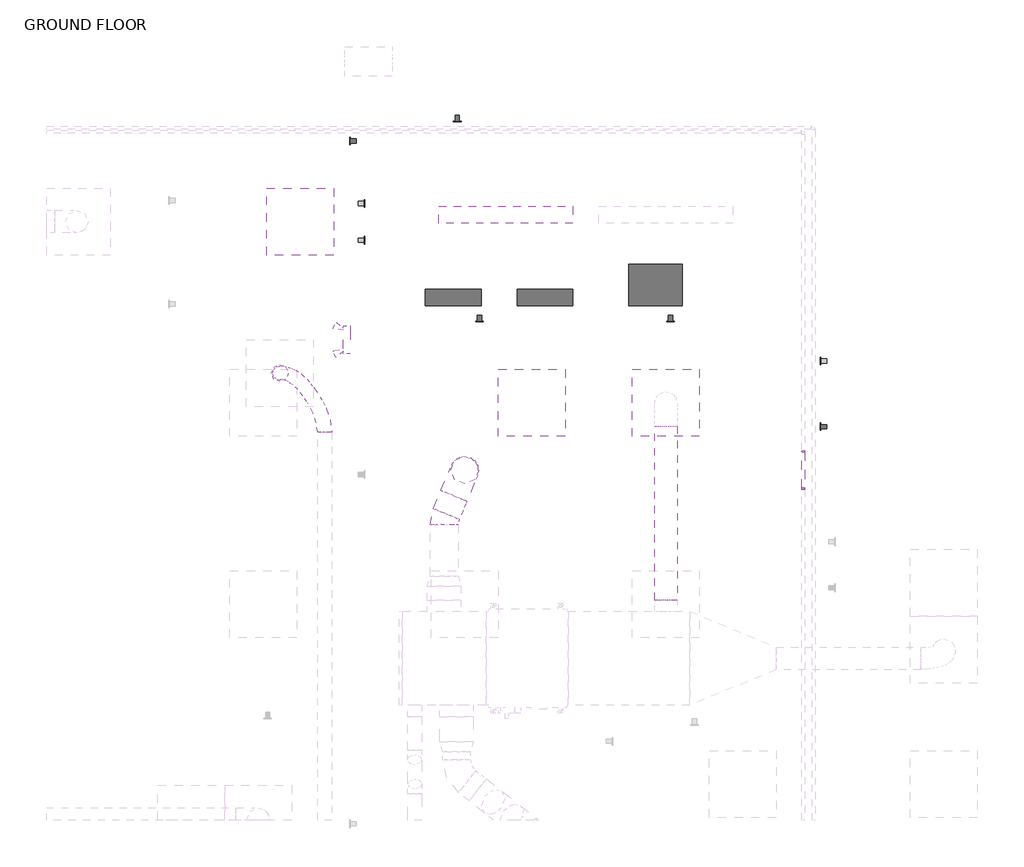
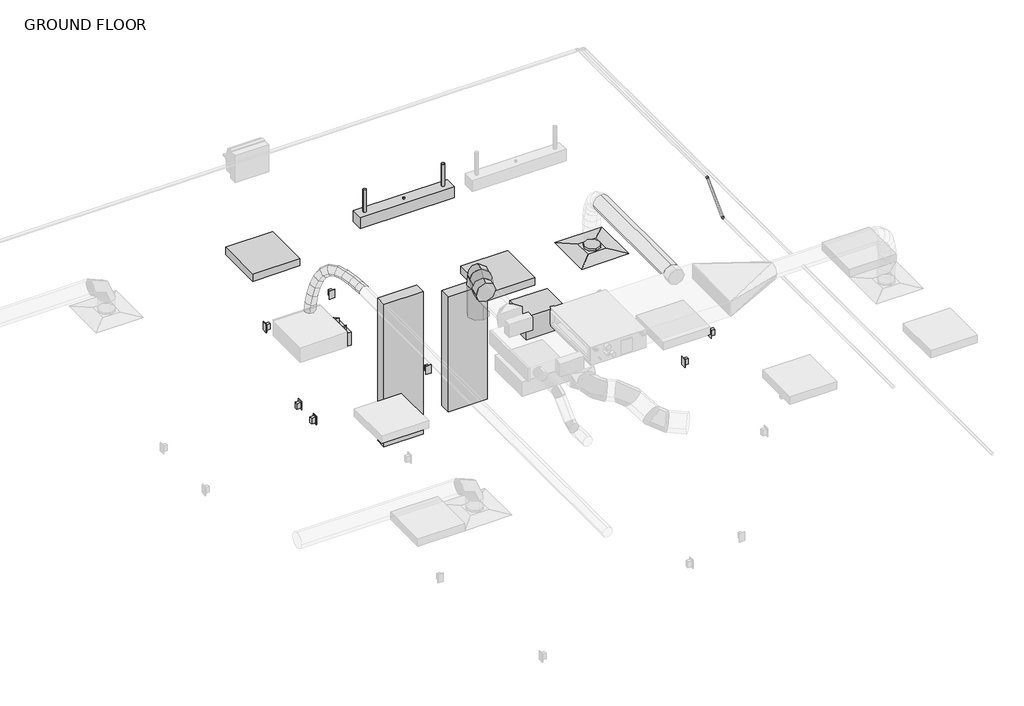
# One storey, part 21 of 22: 7 proxies, 4 duct segments, 4 light fixtures, 3 duct fittings, 2 electric appliances, 2 pipe fittings, 2 switching devices, 1 air terminal, 1 pipe segment.
"""IFC4 building model written with IfcOpenShell, lengths in millimetres."""

from ifc_helpers import new_model, si_unit, point, frame, frame_2d, origin, place, context, project, spatial, circle_curve, ellipse_curve, trimmed, segment, composite_curve, outline, extrude, transform, mapped, element, save
from ifc_brep_helpers import plane_surface, cylinder_surface, advanced_brep
from components import air_terminal_e9020785, proxy_15_kva_662d63cf, duplex_receptacle_countertop_10251bba, lighting_and_appliance_panelboard_208v_mcb_surface_400_a_1492eeec, lighting_and_appliance_panelboard_480v_mcb_surface_400_a_88b687c3, round_elbow_1_d_6fec3262, round_elbow_1_d_5b88d7e2, round_transition_angle_45_degree_fe5c3047, telephone_outlet_data_plain_18c24199, emergency_wall_light_120v_37438f40, suspended_fluorescent_strip_non_hosted_strip_light_1x4_120v_4ea4ccb3, troffer_corner_insert_2x2_3lamp_e67c7f8f, elbow_generic_standard_1964ee4a

model = new_model("IFC4")

# Units and contexts
model_context = context("Model", 3, world=origin())
ifc_project = project(units=[si_unit("LENGTHUNIT", "METRE", prefix="MILLI")], contexts=[model_context])

# Site, building, storey
site = spatial("IfcSite", under=ifc_project)
building = spatial("IfcBuilding", under=site)
storey = spatial("IfcBuildingStorey", under=building, Name="GROUND FLOOR", Elevation=30480.0)

# Air terminal
placement = place(None, origin())
air_terminal_shape = air_terminal_e9020785(model_context)
element("IfcAirTerminal", 1, ObjectType="Supply Diffuser - Rectangular Face Round Neck - Hosted : 24\"x24\" Face 8\" Neck - Hosted", at=placement, inside=storey, context=model_context, shape_type="MappedRepresentation", body=[
    mapped(air_terminal_shape, transform((12040.5545393, 5163.5445005, 33223.2), x_axis=(0.0, -1.0, 0.0), y_axis=(-1.0, 0.0, 0.0), z_axis=(0.0, 0.0, -1.0))),
])

# Proxies
proxy_15_kva_shape = proxy_15_kva_662d63cf(model_context)
element("IfcBuildingElementProxy", 2, Name="Dry Type Transformer - 480-208Y120 - NEMA Type 3R : 15 kVA", ObjectType="Dry Type Transformer - 480-208Y120 - NEMA Type 3R : 15 kVA", at=placement, inside=storey, context=model_context, shape_type="MappedRepresentation", body=[
    mapped(proxy_15_kva_shape, transform((11944.9930047, 6049.3695005, 31699.2), x_axis=(-1.0, 0.0, 0.0), y_axis=(0.0, 0.0, 1.0), z_axis=(0.0, 1.0, 0.0))),
])
duplex_receptacle_countertop_shape = duplex_receptacle_countertop_10251bba(model_context)
element("IfcBuildingElementProxy", 3, Name="Duplex Receptacle : Countertop", ObjectType="Duplex Receptacle : Countertop", at=placement, inside=storey, context=model_context, shape_type="MappedRepresentation", body=[
    mapped(duplex_receptacle_countertop_shape, transform((10347.0005995, 5906.4945005, 31699.2), x_axis=(1.0, 0.0, 0.0), y_axis=(0.0, 0.0, 1.0), z_axis=(0.0, -1.0, 0.0))),
])
element("IfcBuildingElementProxy", 4, Name="Duplex Receptacle : Countertop", ObjectType="Duplex Receptacle : Countertop", at=placement, inside=storey, context=model_context, shape_type="MappedRepresentation", body=[
    mapped(duplex_receptacle_countertop_shape, transform((12083.1234359, 5906.4945005, 31699.2), x_axis=(1.0, 0.0, 0.0), y_axis=(0.0, 0.0, 1.0), z_axis=(0.0, -1.0, 0.0))),
])
element("IfcBuildingElementProxy", 5, Name="Duplex Receptacle : Countertop", ObjectType="Duplex Receptacle : Countertop", at=placement, inside=storey, context=model_context, shape_type="MappedRepresentation", body=[
    mapped(duplex_receptacle_countertop_shape, transform((13450.2545393, 4948.4443724, 31699.2), x_axis=(0.0, -1.0, 0.0), y_axis=(0.0, 0.0, 1.0), z_axis=(-1.0, 0.0, 0.0))),
])
element("IfcBuildingElementProxy", 6, Name="Duplex Receptacle : Standard", ObjectType="Duplex Receptacle : Standard", at=placement, inside=storey, context=model_context, shape_type="MappedRepresentation", body=[
    mapped(duplex_receptacle_countertop_shape, transform((9297.3545393, 6976.0330864, 30937.2), x_axis=(0.0, 1.0, 0.0), y_axis=(0.0, 0.0, 1.0), z_axis=(1.0, 0.0, 0.0))),
])
lighting_and_appliance_panelboard_208v_mcb_surface_400_a_shape = lighting_and_appliance_panelboard_208v_mcb_surface_400_a_1492eeec(model_context)
element("IfcBuildingElementProxy", 7, Name="Lighting and Appliance Panelboard - 208V MCB - Surface : 400 A", ObjectType="Lighting and Appliance Panelboard - 208V MCB - Surface : 400 A", at=placement, inside=storey, context=model_context, shape_type="MappedRepresentation", body=[
    mapped(lighting_and_appliance_panelboard_208v_mcb_surface_400_a_shape, transform((10202.0902446, 6049.3695005, 31935.3056703), x_axis=(-1.0, 0.0, 0.0), y_axis=(0.0, 0.0, 1.0), z_axis=(0.0, 1.0, 0.0))),
])
lighting_and_appliance_panelboard_480v_mcb_surface_400_a_shape = lighting_and_appliance_panelboard_480v_mcb_surface_400_a_88b687c3(model_context)
element("IfcBuildingElementProxy", 8, Name="Lighting and Appliance Panelboard - 480V MCB - Surface : 400 A", ObjectType="Lighting and Appliance Panelboard - 480V MCB - Surface : 400 A", at=placement, inside=storey, context=model_context, shape_type="MappedRepresentation", body=[
    mapped(lighting_and_appliance_panelboard_480v_mcb_surface_400_a_shape, transform((11043.3905267, 6049.3695005, 32181.8), x_axis=(-1.0, 0.0, 0.0), y_axis=(0.0, 0.0, 1.0), z_axis=(0.0, 1.0, 0.0))),
])

# Duct fittings
round_elbow_1_d_shape = round_elbow_1_d_6fec3262(model_context)
element("IfcDuctFitting", 9, ObjectType="Round Elbow : 1 D", at=placement, inside=storey, context=model_context, shape_type="MappedRepresentation", body=[
    mapped(round_elbow_1_d_shape, transform((10211.7545393, 4553.9445005, 33992.34375), x_axis=(0.0, 0.0, 1.0), y_axis=(-0.3851088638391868, -0.9228711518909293, 0.0), z_axis=(0.9228711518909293, -0.3851088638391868, 0.0))),
])
round_elbow_1_d_2_shape = round_elbow_1_d_5b88d7e2(model_context)
element("IfcDuctFitting", 10, ObjectType="Round Elbow : 1 D", at=placement, inside=storey, context=model_context, shape_type="MappedRepresentation", body=[
    mapped(round_elbow_1_d_2_shape, transform((10025.6343566, 4107.927897, 33992.34375), x_axis=(-0.3851088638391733, -0.9228711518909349, 0.0), y_axis=(0.9228711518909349, -0.3851088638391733, 0.0), z_axis=(0.0, 0.0, 1.0))),
])
round_transition_angle_45_degree_shape = round_transition_angle_45_degree_fe5c3047(model_context)
element("IfcDuctFitting", 11, ObjectType="Round Transition - Angle : 45 Degree", at=placement, inside=storey, context=model_context, shape_type="MappedRepresentation", body=[
    mapped(round_transition_angle_45_degree_shape, transform((8532.1795393, 5435.0070005, 33277.175), x_axis=(0.0, 0.0, 1.0), y_axis=(-1.0, 0.0, 0.0), z_axis=(0.0, -1.0, 0.0))),
])

# Duct segments
element("IfcDuctSegment", 12, ObjectType="Flex - Round", at=placement, inside=storey, context=model_context, shape_type="AdvancedBrep", body=[
    advanced_brep(
    [(8875.0795393, 4896.3149962, 33877.25), (8938.5795393, 4896.3149962, 33813.75), (9002.0795393, 4896.3149962, 33877.25), (8938.5795393, 4896.3149962, 33940.75), (8875.0795393, 4900.8547311, 33877.25), (8938.5795393, 4910.0877861, 33813.75), (9002.0795393, 4909.5169222, 33877.25), (8938.5795393, 4900.2838673, 33940.75), (8498.0807082, 5381.4391023, 33307.8355122), (8478.6116411, 5469.1058316, 33307.8355122), (8566.2783703, 5488.5748987, 33307.8355122), (8585.7474375, 5400.9081695, 33307.8355122), (8863.8857275, 4982.0425527, 33889.9192219), (8924.7050592, 5010.7182805, 33829.453218), (8988.1741865, 5010.3713338, 33892.9881599), (8927.3548548, 4981.695606, 33953.4541638), (8833.8111138, 5071.1041338, 33919.2099071), (8889.698954, 5114.3837541, 33863.5468498), (8951.9191716, 5117.7352714, 33928.2981472), (8896.0313313, 5074.4556512, 33983.9612045), (8790.3755866, 5155.8451563, 33951.454483), (8843.3871918, 5204.7361993, 33897.9266129), (8901.2464031, 5216.59587, 33965.9153246), (8848.234798, 5167.704827, 34019.4431947), (8740.8976826, 5229.4503342, 33971.6182323), (8795.5614036, 5275.8836278, 33917.4170747), (8842.289142, 5304.3028933, 33989.9421998), (8787.6254209, 5257.8695997, 34044.1433574), (8692.9401256, 5286.2917627, 33966.2015223), (8756.497109, 5322.1843665, 33913.0048409), (8780.9199976, 5377.0403315, 33983.010678), (8717.3630142, 5341.1477278, 34036.2073593), (8648.8363887, 5327.176377, 33928.1852472), (8723.3182628, 5352.9414955, 33884.4055378), (8724.8233616, 5429.0424857, 33934.6568355), (8650.3414874, 5403.2773672, 33978.436545), (8607.4407626, 5355.753782, 33859.0017765), (8688.2568527, 5377.1460846, 33825.8082832), (8677.5734778, 5461.6613682, 33855.689291), (8596.7573877, 5440.2690657, 33888.8827843), (8570.661405, 5373.1745384, 33764.8754307), (8654.5815203, 5393.0966014, 33739.6258104), (8638.6693155, 5480.0885507, 33756.1251094), (8554.7492003, 5460.1664877, 33781.3747297), (8540.2848152, 5381.5183216, 33654.4016344), (8625.8982569, 5400.975265, 33635.3103157), (8607.7315024, 5488.5864897, 33643.6102521), (8522.1180606, 5469.1295464, 33662.7015708), (8517.4559318, 5383.612627, 33536.0689468), (8604.1400503, 5402.9713472, 33522.5274422), (8585.0222265, 5490.6698223, 33525.8975454), (8498.338108, 5471.3111021, 33539.43905), (8503.0715594, 5382.5248173, 33417.9387862), (8590.4843538, 5401.9386432, 33410.3814563), (8571.0518102, 5489.6133179, 33411.1669567), (8483.6390159, 5470.1994919, 33418.7242867), (8498.0807082, 5381.4391023, 33311.8810992), (8585.7474375, 5400.9081695, 33309.7199931), (8566.2783703, 5488.5748987, 33309.7293512), (8478.6116411, 5469.1058316, 33311.8904572)],
    [
        (0, 1, circle_curve(frame((8938.5795393, 4896.3149962, 33877.25), z_axis=(0.0, -1.0, 0.0), x_axis=(-1.0, 0.0, 0.0)), 63.5)),
        (1, 2, circle_curve(frame((8938.5795393, 4896.3149962, 33877.25), z_axis=(0.0, -1.0, 0.0), x_axis=(-1.0, 0.0, 0.0)), 63.5)),
        (2, 3, circle_curve(frame((8938.5795393, 4896.3149962, 33877.25), z_axis=(0.0, -1.0, 0.0), x_axis=(-1.0, 0.0, 0.0)), 63.5)),
        (3, 0, circle_curve(frame((8938.5795393, 4896.3149962, 33877.25), z_axis=(0.0, -1.0, 0.0), x_axis=(-1.0, 0.0, 0.0)), 63.5)),
        (0, 4),
        (4, 5, ellipse_curve(frame((8938.5795393, 4905.1858267, 33877.25), z_axis=(0.06784720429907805, -0.9947361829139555, -0.07678986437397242), x_axis=(-0.6586379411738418, -0.1024691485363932, 0.7454502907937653)), 63.8360211, 63.5)),
        (5, 1),
        (5, 6, ellipse_curve(frame((8938.5795393, 4905.1858267, 33877.25), z_axis=(0.06784720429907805, -0.9947361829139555, -0.07678986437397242), x_axis=(-0.6586379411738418, -0.1024691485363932, 0.7454502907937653)), 63.8360211, 63.5)),
        (6, 2),
        (6, 7, ellipse_curve(frame((8938.5795393, 4905.1858267, 33877.25), z_axis=(0.06784720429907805, -0.9947361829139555, -0.07678986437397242), x_axis=(-0.6586379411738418, -0.1024691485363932, 0.7454502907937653)), 63.8360211, 63.5)),
        (7, 3),
        (7, 4, ellipse_curve(frame((8938.5795393, 4905.1858267, 33877.25), z_axis=(0.06784720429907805, -0.9947361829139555, -0.07678986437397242), x_axis=(-0.6586379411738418, -0.1024691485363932, 0.7454502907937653)), 63.8360211, 63.5)),
        (8, 9, circle_curve(frame((8532.1795393, 5435.0070005, 33307.8355122), z_axis=(0.0, 0.0, -1.0), x_axis=(-0.5369894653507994, -0.8435889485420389, 0.0)), 63.5)),
        (9, 10, circle_curve(frame((8532.1795393, 5435.0070005, 33307.8355122), z_axis=(0.0, 0.0, -1.0), x_axis=(-0.5369894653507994, -0.8435889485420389, 0.0)), 63.5)),
        (10, 11, circle_curve(frame((8532.1795393, 5435.0070005, 33307.8355122), z_axis=(0.0, 0.0, -1.0), x_axis=(-0.5369894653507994, -0.8435889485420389, 0.0)), 63.5)),
        (11, 8, circle_curve(frame((8532.1795393, 5435.0070005, 33307.8355122), z_axis=(0.0, 0.0, -1.0), x_axis=(-0.5369894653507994, -0.8435889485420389, 0.0)), 63.5)),
        (4, 12),
        (12, 13, ellipse_curve(frame((8926.029957, 4996.2069433, 33891.4536909), z_axis=(0.22176007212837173, -0.9483804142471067, -0.22670919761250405), x_axis=(-0.7233012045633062, -0.31591314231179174, 0.6140311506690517)), 63.9455449, 63.5)),
        (13, 5),
        (13, 14, ellipse_curve(frame((8926.029957, 4996.2069433, 33891.4536909), z_axis=(0.22176007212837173, -0.9483804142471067, -0.22670919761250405), x_axis=(-0.7233012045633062, -0.31591314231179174, 0.6140311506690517)), 63.9455449, 63.5)),
        (14, 6),
        (14, 15, ellipse_curve(frame((8926.029957, 4996.2069433, 33891.4536909), z_axis=(0.22176007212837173, -0.9483804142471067, -0.22670919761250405), x_axis=(-0.7233012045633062, -0.31591314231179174, 0.6140311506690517)), 63.9455449, 63.5)),
        (15, 7),
        (15, 12, ellipse_curve(frame((8926.029957, 4996.2069433, 33891.4536909), z_axis=(0.22176007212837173, -0.9483804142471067, -0.22670919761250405), x_axis=(-0.7233012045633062, -0.31591314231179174, 0.6140311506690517)), 63.9455449, 63.5)),
        (12, 16),
        (16, 17, ellipse_curve(frame((8892.8651427, 5094.4197026, 33923.7540271), z_axis=(0.36968793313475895, -0.8759532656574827, -0.30989790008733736), x_axis=(-0.8870554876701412, -0.43198690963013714, 0.1628492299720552)), 63.6622762, 63.5)),
        (17, 13),
        (17, 18, ellipse_curve(frame((8892.8651427, 5094.4197026, 33923.7540271), z_axis=(0.36968793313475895, -0.8759532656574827, -0.30989790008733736), x_axis=(-0.8870554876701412, -0.43198690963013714, 0.1628492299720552)), 63.6622762, 63.5)),
        (18, 14),
        (18, 19, ellipse_curve(frame((8892.8651427, 5094.4197026, 33923.7540271), z_axis=(0.36968793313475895, -0.8759532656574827, -0.30989790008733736), x_axis=(-0.8870554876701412, -0.43198690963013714, 0.1628492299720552)), 63.6622762, 63.5)),
        (19, 15),
        (19, 16, ellipse_curve(frame((8892.8651427, 5094.4197026, 33923.7540271), z_axis=(0.36968793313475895, -0.8759532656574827, -0.30989790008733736), x_axis=(-0.8870554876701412, -0.43198690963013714, 0.1628492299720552)), 63.6622762, 63.5)),
        (16, 20),
        (20, 21, ellipse_curve(frame((8845.8109949, 5186.2205132, 33958.6849038), z_axis=(0.4894574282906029, -0.8285176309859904, -0.272010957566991), x_axis=(-0.7307496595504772, -0.21947974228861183, -0.6464004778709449)), 63.6871348, 63.5)),
        (21, 17),
        (21, 22, ellipse_curve(frame((8845.8109949, 5186.2205132, 33958.6849038), z_axis=(0.4894574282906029, -0.8285176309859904, -0.272010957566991), x_axis=(-0.7307496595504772, -0.21947974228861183, -0.6464004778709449)), 63.6871348, 63.5)),
        (22, 18),
        (22, 23, ellipse_curve(frame((8845.8109949, 5186.2205132, 33958.6849038), z_axis=(0.4894574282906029, -0.8285176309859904, -0.272010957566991), x_axis=(-0.7307496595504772, -0.21947974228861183, -0.6464004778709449)), 63.6871348, 63.5)),
        (23, 19),
        (23, 20, ellipse_curve(frame((8845.8109949, 5186.2205132, 33958.6849038), z_axis=(0.4894574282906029, -0.8285176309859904, -0.272010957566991), x_axis=(-0.7307496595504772, -0.21947974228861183, -0.6464004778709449)), 63.6871348, 63.5)),
        (20, 24),
        (24, 25, ellipse_curve(frame((8791.5934123, 5266.8766137, 33980.780216), z_axis=(0.6010322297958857, -0.7956541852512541, -0.07546307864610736), x_axis=(-0.31564562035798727, -0.1495663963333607, -0.9370153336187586)), 64.2980116, 63.5)),
        (25, 21),
        (25, 26, ellipse_curve(frame((8791.5934123, 5266.8766137, 33980.780216), z_axis=(0.6010322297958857, -0.7956541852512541, -0.07546307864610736), x_axis=(-0.31564562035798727, -0.1495663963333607, -0.9370153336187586)), 64.2980116, 63.5)),
        (26, 22),
        (26, 27, ellipse_curve(frame((8791.5934123, 5266.8766137, 33980.780216), z_axis=(0.6010322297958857, -0.7956541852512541, -0.07546307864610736), x_axis=(-0.31564562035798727, -0.1495663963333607, -0.9370153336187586)), 64.2980116, 63.5)),
        (27, 23),
        (27, 24, ellipse_curve(frame((8791.5934123, 5266.8766137, 33980.780216), z_axis=(0.6010322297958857, -0.7956541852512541, -0.07546307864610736), x_axis=(-0.31564562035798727, -0.1495663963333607, -0.9370153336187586)), 64.2980116, 63.5)),
        (24, 28),
        (28, 29, ellipse_curve(frame((8736.9300616, 5331.6660471, 33974.6061001), z_axis=(0.6521372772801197, -0.6902902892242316, 0.3133947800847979), x_axis=(0.04661097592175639, -0.37610301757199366, -0.9254047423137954)), 65.5729657, 63.5)),
        (29, 25),
        (29, 30, ellipse_curve(frame((8736.9300616, 5331.6660471, 33974.6061001), z_axis=(0.6521372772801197, -0.6902902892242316, 0.3133947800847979), x_axis=(0.04661097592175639, -0.37610301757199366, -0.9254047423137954)), 65.5729657, 63.5)),
        (30, 26),
        (30, 31, ellipse_curve(frame((8736.9300616, 5331.6660471, 33974.6061001), z_axis=(0.6521372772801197, -0.6902902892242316, 0.3133947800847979), x_axis=(0.04661097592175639, -0.37610301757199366, -0.9254047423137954)), 65.5729657, 63.5)),
        (31, 27),
        (31, 28, ellipse_curve(frame((8736.9300616, 5331.6660471, 33974.6061001), z_axis=(0.6521372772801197, -0.6902902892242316, 0.3133947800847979), x_axis=(0.04661097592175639, -0.37610301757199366, -0.9254047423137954)), 65.5729657, 63.5)),
        (28, 32),
        (32, 33, ellipse_curve(frame((8686.8298751, 5378.1094314, 33931.4210414), z_axis=(0.562693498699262, -0.46323884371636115, 0.6846793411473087), x_axis=(0.3490527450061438, -0.6176477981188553, -0.7047505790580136)), 64.739373, 63.5)),
        (33, 29),
        (33, 34, ellipse_curve(frame((8686.8298751, 5378.1094314, 33931.4210414), z_axis=(0.562693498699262, -0.46323884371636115, 0.6846793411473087), x_axis=(0.3490527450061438, -0.6176477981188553, -0.7047505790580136)), 64.739373, 63.5)),
        (34, 30),
        (34, 35, ellipse_curve(frame((8686.8298751, 5378.1094314, 33931.4210414), z_axis=(0.562693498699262, -0.46323884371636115, 0.6846793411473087), x_axis=(0.3490527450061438, -0.6176477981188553, -0.7047505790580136)), 64.739373, 63.5)),
        (35, 31),
        (35, 32, ellipse_curve(frame((8686.8298751, 5378.1094314, 33931.4210414), z_axis=(0.562693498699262, -0.46323884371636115, 0.6846793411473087), x_axis=(0.3490527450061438, -0.6176477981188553, -0.7047505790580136)), 64.739373, 63.5)),
        (32, 36),
        (36, 37, ellipse_curve(frame((8642.5071202, 5408.7075751, 33857.3455337), z_axis=(0.42420587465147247, -0.2537229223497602, 0.869295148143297), x_axis=(0.5363938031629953, -0.7030237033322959, -0.4669468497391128)), 63.9375529, 63.5)),
        (37, 33),
        (37, 38, ellipse_curve(frame((8642.5071202, 5408.7075751, 33857.3455337), z_axis=(0.42420587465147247, -0.2537229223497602, 0.869295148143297), x_axis=(0.5363938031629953, -0.7030237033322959, -0.4669468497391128)), 63.9375529, 63.5)),
        (38, 34),
        (38, 39, ellipse_curve(frame((8642.5071202, 5408.7075751, 33857.3455337), z_axis=(0.42420587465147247, -0.2537229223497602, 0.869295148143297), x_axis=(0.5363938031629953, -0.7030237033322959, -0.4669468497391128)), 63.9375529, 63.5)),
        (39, 35),
        (39, 36, ellipse_curve(frame((8642.5071202, 5408.7075751, 33857.3455337), z_axis=(0.42420587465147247, -0.2537229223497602, 0.869295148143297), x_axis=(0.5363938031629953, -0.7030237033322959, -0.4669468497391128)), 63.9375529, 63.5)),
        (36, 40),
        (40, 41, ellipse_curve(frame((8604.6653603, 5426.6315445, 33760.5002701), z_axis=(0.31233337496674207, -0.12156419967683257, 0.9421624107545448), x_axis=(0.662124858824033, -0.6833243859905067, -0.3076661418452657)), 63.6613778, 63.5)),
        (41, 37),
        (41, 42, ellipse_curve(frame((8604.6653603, 5426.6315445, 33760.5002701), z_axis=(0.31233337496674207, -0.12156419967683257, 0.9421624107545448), x_axis=(0.662124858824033, -0.6833243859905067, -0.3076661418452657)), 63.6613778, 63.5)),
        (42, 38),
        (42, 43, ellipse_curve(frame((8604.6653603, 5426.6315445, 33760.5002701), z_axis=(0.31233337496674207, -0.12156419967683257, 0.9421624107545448), x_axis=(0.662124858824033, -0.6833243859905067, -0.3076661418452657)), 63.6613778, 63.5)),
        (43, 39),
        (43, 40, ellipse_curve(frame((8604.6653603, 5426.6315445, 33760.5002701), z_axis=(0.31233337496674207, -0.12156419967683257, 0.9421624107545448), x_axis=(0.662124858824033, -0.6833243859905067, -0.3076661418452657)), 63.6613778, 63.5)),
        (40, 44),
        (44, 45, ellipse_curve(frame((8574.0081588, 5435.0524057, 33649.0059432), z_axis=(0.22717106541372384, -0.04505492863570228, 0.9728120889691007), x_axis=(0.7871206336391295, -0.5797108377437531, -0.21065719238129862)), 63.5722389, 63.5)),
        (45, 41),
        (45, 46, ellipse_curve(frame((8574.0081588, 5435.0524057, 33649.0059432), z_axis=(0.22717106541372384, -0.04505492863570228, 0.9728120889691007), x_axis=(0.7871206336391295, -0.5797108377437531, -0.21065719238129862)), 63.5722389, 63.5)),
        (46, 42),
        (46, 47, ellipse_curve(frame((8574.0081588, 5435.0524057, 33649.0059432), z_axis=(0.22717106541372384, -0.04505492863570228, 0.9728120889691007), x_axis=(0.7871206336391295, -0.5797108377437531, -0.21065719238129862)), 63.5722389, 63.5)),
        (47, 43),
        (47, 44, ellipse_curve(frame((8574.0081588, 5435.0524057, 33649.0059432), z_axis=(0.22717106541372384, -0.04505492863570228, 0.9728120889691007), x_axis=(0.7871206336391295, -0.5797108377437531, -0.21065719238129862)), 63.5722389, 63.5)),
        (44, 48),
        (48, 49, ellipse_curve(frame((8551.2390791, 5437.1412247, 33530.9832461), z_axis=(0.15524158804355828, -0.004120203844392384, 0.9878679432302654), x_axis=(0.9225643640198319, -0.356962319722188, -0.14646807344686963)), 63.5438436, 63.5)),
        (49, 45),
        (49, 50, ellipse_curve(frame((8551.2390791, 5437.1412247, 33530.9832461), z_axis=(0.15524158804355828, -0.004120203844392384, 0.9878679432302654), x_axis=(0.9225643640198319, -0.356962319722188, -0.14646807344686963)), 63.5438436, 63.5)),
        (50, 46),
        (50, 51, ellipse_curve(frame((8551.2390791, 5437.1412247, 33530.9832461), z_axis=(0.15524158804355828, -0.004120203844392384, 0.9878679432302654), x_axis=(0.9225643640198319, -0.356962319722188, -0.14646807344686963)), 63.5438436, 63.5)),
        (51, 47),
        (51, 48, ellipse_curve(frame((8551.2390791, 5437.1412247, 33530.9832461), z_axis=(0.15524158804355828, -0.004120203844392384, 0.9878679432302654), x_axis=(0.9225643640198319, -0.356962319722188, -0.14646807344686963)), 63.5438436, 63.5)),
        (48, 52),
        (52, 53, ellipse_curve(frame((8537.0616848, 5436.0690676, 33414.5528715), z_axis=(0.08399407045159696, 0.009689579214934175, 0.9964191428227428), x_axis=(0.9963711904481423, -0.014628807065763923, -0.0838477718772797)), 63.5436694, 63.5)),
        (53, 49),
        (53, 54, ellipse_curve(frame((8537.0616848, 5436.0690676, 33414.5528715), z_axis=(0.08399407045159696, 0.009689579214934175, 0.9964191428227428), x_axis=(0.9963711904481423, -0.014628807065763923, -0.0838477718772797)), 63.5436694, 63.5)),
        (54, 50),
        (54, 55, ellipse_curve(frame((8537.0616848, 5436.0690676, 33414.5528715), z_axis=(0.08399407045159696, 0.009689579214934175, 0.9964191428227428), x_axis=(0.9963711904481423, -0.014628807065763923, -0.0838477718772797)), 63.5436694, 63.5)),
        (55, 51),
        (55, 52, ellipse_curve(frame((8537.0616848, 5436.0690676, 33414.5528715), z_axis=(0.08399407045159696, 0.009689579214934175, 0.9964191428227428), x_axis=(0.9963711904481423, -0.014628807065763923, -0.0838477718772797)), 63.5436694, 63.5)),
        (52, 56),
        (56, 57, ellipse_curve(frame((8532.1795393, 5435.0070005, 33310.8052252), z_axis=(0.02350851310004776, 0.005114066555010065, 0.9997105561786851), x_axis=(0.9768631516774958, 0.21250783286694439, -0.024058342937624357)), 63.518385, 63.5)),
        (57, 53),
        (57, 58, ellipse_curve(frame((8532.1795393, 5435.0070005, 33310.8052252), z_axis=(0.02350851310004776, 0.005114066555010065, 0.9997105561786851), x_axis=(0.9768631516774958, 0.21250783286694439, -0.024058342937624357)), 63.518385, 63.5)),
        (58, 54),
        (58, 59, ellipse_curve(frame((8532.1795393, 5435.0070005, 33310.8052252), z_axis=(0.02350851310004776, 0.005114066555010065, 0.9997105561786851), x_axis=(0.9768631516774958, 0.21250783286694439, -0.024058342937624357)), 63.518385, 63.5)),
        (59, 55),
        (59, 56, ellipse_curve(frame((8532.1795393, 5435.0070005, 33310.8052252), z_axis=(0.02350851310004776, 0.005114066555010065, 0.9997105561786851), x_axis=(0.9768631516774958, 0.21250783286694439, -0.024058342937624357)), 63.518385, 63.5)),
        (56, 8),
        (11, 57),
        (10, 58),
        (9, 59),
    ],
    [
        plane_surface(frame((8875.0795393, 4896.3149962, 33877.25), z_axis=(0.0, -1.0, 0.0), x_axis=(0.0, 0.0, 1.0))),
        cylinder_surface(frame((8938.5795393, 4896.3149962, 33877.25), z_axis=(0.0, -1.0, 0.0), x_axis=(-1.0, 0.0, 0.0)), 63.5),
        plane_surface(frame((8532.1795393, 5371.5070005, 33307.8355122), z_axis=(0.0, 0.0, -1.0), x_axis=(-1.0, 0.0, 0.0))),
        cylinder_surface(frame((8938.5795393, 4905.1858267, 33877.25), z_axis=(0.1349801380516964, -0.9790001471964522, -0.1527713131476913), x_axis=(-0.9907935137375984, -0.1349801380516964, -0.010419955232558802)), 63.5),
        cylinder_surface(frame((8926.029957, 4996.2069433, 33891.4536909), z_axis=(0.30544974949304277, -0.9045448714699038, -0.2974878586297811), x_axis=(-0.9511678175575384, -0.304443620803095, -0.05092999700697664)), 63.5),
        cylinder_surface(frame((8892.8651427, 5094.4197026, 33923.7540271), z_axis=(0.4320414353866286, -0.8428960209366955, -0.3207280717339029), x_axis=(-0.9000223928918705, -0.4256296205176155, -0.09380361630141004)), 63.5),
        cylinder_surface(frame((8845.8109949, 5186.2205132, 33958.6849038), z_axis=(0.543997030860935, -0.8092702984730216, -0.22169531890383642), x_axis=(-0.8389719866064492, -0.5289712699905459, -0.1277317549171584)), 63.5),
        cylinder_surface(frame((8791.5934123, 5266.8766137, 33980.780216), z_axis=(0.6431484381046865, -0.7622881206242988, 0.07264232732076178), x_axis=(-0.7503414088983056, -0.6463015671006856, -0.13885983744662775)), 63.5),
        cylinder_surface(frame((8736.9300616, 5331.6660471, 33974.6061001), z_axis=(0.6198939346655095, -0.5746480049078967, 0.5343324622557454), x_axis=(-0.6372505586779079, -0.7660087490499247, -0.08451225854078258)), 63.5),
        cylinder_surface(frame((8686.8298751, 5378.1094314, 33931.4210414), z_axis=(0.4839486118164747, -0.33409315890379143, 0.808811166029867), x_axis=(-0.5679317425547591, -0.8230756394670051, -0.0001658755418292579)), 63.5),
        cylinder_surface(frame((8642.5071202, 5408.7075751, 33857.3455337), z_axis=(0.3586570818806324, -0.16988001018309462, 0.9178811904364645), x_axis=(-0.540586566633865, -0.8394311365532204, 0.055870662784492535)), 63.5),
        cylinder_surface(frame((8604.6653603, 5426.6315445, 33760.5002701), z_axis=(0.26442617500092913, -0.07263207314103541, 0.961666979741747), x_axis=(-0.531741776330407, -0.8428736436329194, 0.08255122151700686)), 63.5),
        cylinder_surface(frame((8574.0081588, 5435.0524057, 33649.0059432), z_axis=(0.18939967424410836, -0.017375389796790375, 0.9817463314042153), x_axis=(-0.5305996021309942, -0.8431001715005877, 0.08744234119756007)), 63.5),
        cylinder_surface(frame((8551.2390791, 5437.1412247, 33530.9832461), z_axis=(0.12086927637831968, 0.009140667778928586, 0.9926263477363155), x_axis=(-0.532923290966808, -0.8430384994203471, 0.07265572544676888)), 63.5),
        cylinder_surface(frame((8537.0616848, 5436.0690676, 33414.5528715), z_axis=(0.04700341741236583, 0.010225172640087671, 0.9988423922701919), x_axis=(-0.5361930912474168, -0.8434157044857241, 0.03386618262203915)), 63.5),
        cylinder_surface(frame((8532.1795393, 5435.0070005, 33310.8052252), z_axis=(0.0, 0.0, 1.0000000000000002), x_axis=(-0.5369894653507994, -0.8435889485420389, 0.0)), 63.5),
    ],
    [
        (0, [[1, 2, 3, 4]]),
        (1, [[-1, 5, 6, 7]]),
        (1, [[-2, -7, 8, 9]]),
        (1, [[-3, -9, 10, 11]]),
        (1, [[-4, -11, 12, -5]]),
        (2, [[13, 14, 15, 16]]),
        (3, [[-6, 17, 18, 19]]),
        (3, [[-8, -19, 20, 21]]),
        (3, [[-10, -21, 22, 23]]),
        (3, [[-12, -23, 24, -17]]),
        (4, [[-18, 25, 26, 27]]),
        (4, [[-20, -27, 28, 29]]),
        (4, [[-22, -29, 30, 31]]),
        (4, [[-24, -31, 32, -25]]),
        (5, [[-26, 33, 34, 35]]),
        (5, [[-28, -35, 36, 37]]),
        (5, [[-30, -37, 38, 39]]),
        (5, [[-32, -39, 40, -33]]),
        (6, [[-34, 41, 42, 43]]),
        (6, [[-36, -43, 44, 45]]),
        (6, [[-38, -45, 46, 47]]),
        (6, [[-40, -47, 48, -41]]),
        (7, [[-42, 49, 50, 51]]),
        (7, [[-44, -51, 52, 53]]),
        (7, [[-46, -53, 54, 55]]),
        (7, [[-48, -55, 56, -49]]),
        (8, [[-50, 57, 58, 59]]),
        (8, [[-52, -59, 60, 61]]),
        (8, [[-54, -61, 62, 63]]),
        (8, [[-56, -63, 64, -57]]),
        (9, [[-58, 65, 66, 67]]),
        (9, [[-60, -67, 68, 69]]),
        (9, [[-62, -69, 70, 71]]),
        (9, [[-64, -71, 72, -65]]),
        (10, [[-66, 73, 74, 75]]),
        (10, [[-68, -75, 76, 77]]),
        (10, [[-70, -77, 78, 79]]),
        (10, [[-72, -79, 80, -73]]),
        (11, [[-74, 81, 82, 83]]),
        (11, [[-76, -83, 84, 85]]),
        (11, [[-78, -85, 86, 87]]),
        (11, [[-80, -87, 88, -81]]),
        (12, [[-82, 89, 90, 91]]),
        (12, [[-84, -91, 92, 93]]),
        (12, [[-86, -93, 94, 95]]),
        (12, [[-88, -95, 96, -89]]),
        (13, [[-90, 97, 98, 99]]),
        (13, [[-92, -99, 100, 101]]),
        (13, [[-94, -101, 102, 103]]),
        (13, [[-96, -103, 104, -97]]),
        (14, [[-98, 105, 106, 107]]),
        (14, [[-100, -107, 108, 109]]),
        (14, [[-102, -109, 110, 111]]),
        (14, [[-104, -111, 112, -105]]),
        (15, [[-106, 113, -16, 114]]),
        (15, [[-108, -114, -15, 115]]),
        (15, [[-110, -115, -14, 116]]),
        (15, [[-112, -116, -13, -113]]),
    ],
),
])
element("IfcDuctSegment", 13, ObjectType="Taps / Short Radius", at=placement, inside=storey, context=model_context, shape_type="SweptSolid", body=[
    extrude(outline(composite_curve([segment(trimmed(circle_curve(frame_2d((0.0, -127.0)), 127.0), [point((-127.0, -127.0))], [point((0.0, 0.0))], False, "CARTESIAN"), True, "CONTINUOUS"), segment(trimmed(circle_curve(frame_2d((0.0, -127.0)), 127.0), [point((0.0, 0.0))], [point((127.0, -127.0))], False, "CARTESIAN"), True, "CONTINUOUS"), segment(trimmed(circle_curve(frame_2d((0.0, -127.0)), 127.0), [point((127.0, -127.0))], [point((0.0, -254.0))], False, "CARTESIAN"), True, "CONTINUOUS"), segment(trimmed(circle_curve(frame_2d((0.0, -127.0)), 127.0), [point((0.0, -254.0))], [point((-127.0, -127.0))], False, "CARTESIAN"), True, "CONTINUOUS")], self_intersect=False)), frame((10045.225084, 4154.8749265, 33865.34375), z_axis=(0.3851088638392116, 0.922871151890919, 0.0), x_axis=(0.922871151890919, -0.3851088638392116, 0.0)), (0.0, 0.0, 1.0), 178.4217668),
])
element("IfcDuctSegment", 14, ObjectType="Taps / Short Radius", at=placement, inside=storey, context=model_context, shape_type="SweptSolid", body=[
    extrude(outline(composite_curve([segment(trimmed(circle_curve(frame_2d((10211.7545393, 4553.9445005)), 127.0), [point((10084.7545393, 4553.9445005))], [point((10211.7545393, 4680.9445005))], False, "CARTESIAN"), True, "CONTINUOUS"), segment(trimmed(circle_curve(frame_2d((10211.7545393, 4553.9445005)), 127.0), [point((10211.7545393, 4680.9445005))], [point((10338.7545393, 4553.9445005))], False, "CARTESIAN"), True, "CONTINUOUS"), segment(trimmed(circle_curve(frame_2d((10211.7545393, 4553.9445005)), 127.0), [point((10338.7545393, 4553.9445005))], [point((10211.7545393, 4426.9445005))], False, "CARTESIAN"), True, "CONTINUOUS"), segment(trimmed(circle_curve(frame_2d((10211.7545393, 4553.9445005)), 127.0), [point((10211.7545393, 4426.9445005))], [point((10084.7545393, 4553.9445005))], False, "CARTESIAN"), True, "CONTINUOUS")], self_intersect=False)), frame((0.0, 0.0, 33324.8), z_axis=(0.0, 0.0, 1.0), x_axis=(1.0, 0.0, 0.0)), (0.0, 0.0, 1.0), 413.54375),
])
element("IfcDuctSegment", 15, ObjectType="Taps / Short Radius", at=placement, inside=storey, context=model_context, shape_type="SweptSolid", body=[
    extrude(outline(composite_curve([segment(trimmed(circle_curve(frame_2d((33978.85, 12040.5545393)), 101.6), [point((33978.85, 12142.1545393))], [point((34080.45, 12040.5545393))], False, "CARTESIAN"), True, "CONTINUOUS"), segment(trimmed(circle_curve(frame_2d((33978.85, 12040.5545393)), 101.6), [point((34080.45, 12040.5545393))], [point((33978.85, 11938.9545393))], False, "CARTESIAN"), True, "CONTINUOUS"), segment(trimmed(circle_curve(frame_2d((33978.85, 12040.5545393)), 101.6), [point((33978.85, 11938.9545393))], [point((33877.25, 12040.5545393))], False, "CARTESIAN"), True, "CONTINUOUS"), segment(trimmed(circle_curve(frame_2d((33978.85, 12040.5545393)), 101.6), [point((33877.25, 12040.5545393))], [point((33978.85, 12142.1545393))], False, "CARTESIAN"), True, "CONTINUOUS")], self_intersect=False)), frame((0.0, 3371.327897, 0.0), z_axis=(0.0, 1.0, 0.0), x_axis=(0.0, 0.0, 1.0)), (0.0, 0.0, 1.0), 1579.4916035),
])

# Electric appliances
telephone_outlet_data_plain_shape = telephone_outlet_data_plain_18c24199(model_context)
element("IfcElectricAppliance", 16, ObjectType="Telephone Outlet - Data : Plain", at=placement, inside=storey, context=model_context, shape_type="MappedRepresentation", body=[
    mapped(telephone_outlet_data_plain_shape, transform((13450.2545393, 4664.9254199, 30079.95), x_axis=(0.0, -1.0, 0.0), y_axis=(0.0, 0.0, 1.0), z_axis=(-1.0, 0.0, 0.0))),
])
element("IfcElectricAppliance", 17, ObjectType="Telephone Outlet - Data : Plain", at=placement, inside=storey, context=model_context, shape_type="MappedRepresentation", body=[
    mapped(telephone_outlet_data_plain_shape, transform((9297.3545393, 7522.4284863, 30079.95), x_axis=(0.0, 1.0, 0.0), y_axis=(0.0, 0.0, 1.0), z_axis=(1.0, 0.0, 0.0))),
])

# Light fixtures
emergency_wall_light_120v_shape = emergency_wall_light_120v_37438f40(model_context)
element("IfcLightFixture", 18, ObjectType="Emergency Wall Light : 120V", at=placement, inside=storey, context=model_context, shape_type="MappedRepresentation", body=[
    mapped(emergency_wall_light_120v_shape, transform((9173.5295393, 5739.0146039, 32715.2), x_axis=(0.0, -1.0, 0.0), y_axis=(0.0, 0.0, 1.0), z_axis=(-1.0, 0.0, 0.0))),
])
suspended_fluorescent_strip_non_hosted_strip_light_1x4_120v_shape = suspended_fluorescent_strip_non_hosted_strip_light_1x4_120v_4ea4ccb3(model_context)
element("IfcLightFixture", 19, ObjectType="Suspended Fluorescent Strip - Non-Hosted : Strip Light 1x4 - 120V Normal", at=placement, inside=storey, context=model_context, shape_type="MappedRepresentation", body=[
    mapped(suspended_fluorescent_strip_non_hosted_strip_light_1x4_120v_shape, transform((10586.0110218, 6874.6802316, 33223.2), x_axis=(1.0, 0.0, 0.0), y_axis=(0.0, 1.0, 0.0), z_axis=(0.0, 0.0, 1.0))),
])
troffer_corner_insert_2x2_3lamp_shape = troffer_corner_insert_2x2_3lamp_e67c7f8f(model_context)
element("IfcLightFixture", 20, ObjectType="Troffer Corner Insert : 2x2 3Lamp", at=placement, inside=storey, context=model_context, shape_type="MappedRepresentation", body=[
    mapped(troffer_corner_insert_2x2_3lamp_shape, transform((10821.3545393, 5163.5445005, 30784.8), x_axis=(1.0, 0.0, 0.0), y_axis=(0.0, 1.0, 0.0), z_axis=(0.0, 0.0, 1.0))),
])
element("IfcLightFixture", 21, ObjectType="Troffer Corner Insert : 2x2 3Lamp", at=placement, inside=storey, context=model_context, shape_type="MappedRepresentation", body=[
    mapped(troffer_corner_insert_2x2_3lamp_shape, transform((8716.3295393, 6811.3695005, 30784.8), x_axis=(1.0, 0.0, 0.0), y_axis=(0.0, 1.0, 0.0), z_axis=(0.0, 0.0, 1.0))),
])

# Pipe fittings
elbow_generic_standard_shape = elbow_generic_standard_1964ee4a(model_context)
element("IfcPipeFitting", 22, ObjectType="Elbow - Generic : Standard", at=placement, inside=storey, context=model_context, shape_type="MappedRepresentation", body=[
    mapped(elbow_generic_standard_shape, transform((13289.5512041, 4726.2310161, 34023.2999997), x_axis=(0.0, -1.0, 0.0), y_axis=(0.0, 0.0, -1.0), z_axis=(1.0, 0.0, 0.0))),
])
element("IfcPipeFitting", 23, ObjectType="Elbow - Generic : Standard", at=placement, inside=storey, context=model_context, shape_type="MappedRepresentation", body=[
    mapped(elbow_generic_standard_shape, transform((13289.5512041, 4383.3310166, 33680.4), x_axis=(0.0, -0.7071067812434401, -0.7071067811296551), y_axis=(0.0, -0.7071067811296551, 0.7071067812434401), z_axis=(-1.0, 0.0, 0.0))),
])

# Pipe segment
element("IfcPipeSegment", 24, ObjectType="Copper Tubing", at=placement, inside=storey, context=model_context, shape_type="SweptSolid", body=[
    extrude(outline(composite_curve([segment(trimmed(circle_curve(frame_2d((0.0, -14.2875)), 14.2875), [point((-14.2875, -14.2875))], [point((0.0, 0.0))], False, "CARTESIAN"), True, "CONTINUOUS"), segment(trimmed(circle_curve(frame_2d((0.0, -14.2875)), 14.2875), [point((0.0, 0.0))], [point((14.2875, -14.2875))], False, "CARTESIAN"), True, "CONTINUOUS"), segment(trimmed(circle_curve(frame_2d((0.0, -14.2875)), 14.2875), [point((14.2875, -14.2875))], [point((0.0, -28.575))], False, "CARTESIAN"), True, "CONTINUOUS"), segment(trimmed(circle_curve(frame_2d((0.0, -14.2875)), 14.2875), [point((0.0, -28.575))], [point((-14.2875, -14.2875))], False, "CARTESIAN"), True, "CONTINUOUS")], self_intersect=False)), frame((13289.5512041, 4399.4783886, 33676.3417957), z_axis=(0.0, 0.707106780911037, 0.7071067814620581), x_axis=(1.0, 0.0, 0.0)), (0.0, 0.0, 1.0), 467.8371652),
])

# Switching devices
element("IfcSwitchingDevice", 25, ObjectType="Lighting Switches : Single Pole", at=placement, inside=storey, context=model_context, shape_type="MappedRepresentation", body=[
    mapped(duplex_receptacle_countertop_shape, transform((9173.5295393, 7544.6878858, 31699.2), x_axis=(0.0, -1.0, 0.0), y_axis=(0.0, 0.0, 1.0), z_axis=(-1.0, 0.0, 0.0))),
])
element("IfcSwitchingDevice", 26, ObjectType="Lighting Switches : Single Pole", at=placement, inside=storey, context=model_context, shape_type="MappedRepresentation", body=[
    mapped(duplex_receptacle_countertop_shape, transform((10144.8795615, 7725.7695005, 31699.2), x_axis=(-1.0, 0.0, 0.0), y_axis=(0.0, 0.0, -1.0), z_axis=(0.0, -1.0, 0.0))),
])

save(model, "model.ifc")
